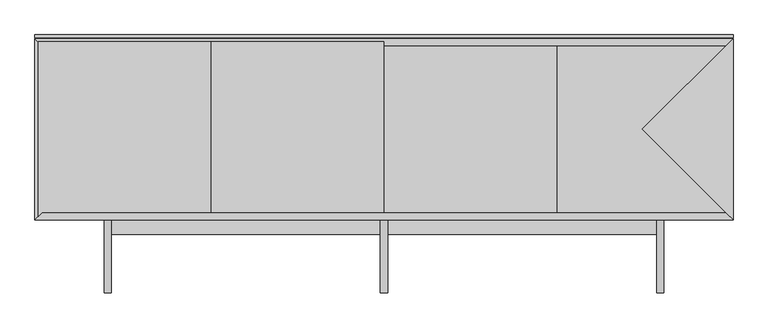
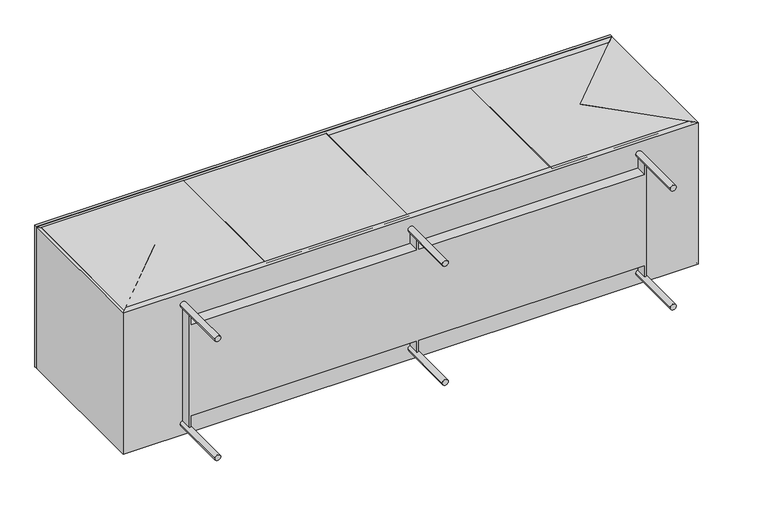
"""IFC4 building model written with IfcOpenShell, lengths in millimetres: proxy geometry, PARAGON^CREDENZA 3_35x96 4 DOORS W TOP-PARTS SOLID."""

import ifcopenshell
import ifcopenshell.guid

model = None  # the IFC model being written
_history = None  # IfcOwnerHistory: only IFC2X3 demands one
_inside = {}  # id of a spatial element -> (the spatial element, [elements in it])
_under = {}  # id of a project, library or spatial element -> (it, [spatial elements below it])
_declared = {}  # id of a project -> (the project, [libraries it declares])
_typed = {}  # id of a type object -> (the type object, [elements of that type])
_made_of = {}  # id of a material, layer set ... -> (it, [elements and type objects made of it])


def new_model(schema):
    """Start an empty IFC model of exactly this schema.

    Asked for "IFC4X3", IfcOpenShell would pick the latest addendum, in which some entities
    have other attributes; the version numbers below select the first issue.
    IFC2X3 requires an IfcOwnerHistory on every rooted entity: one is made here for all.
    """
    global model, _history
    if schema == "IFC4X3":
        model = ifcopenshell.file(schema_version=(4, 3, 0, 0))
    else:
        model = ifcopenshell.file(schema=schema)
    _inside.clear()
    _under.clear()
    _declared.clear()
    _typed.clear()
    _made_of.clear()
    _history = None
    if model.schema == "IFC2X3":
        org = make("IfcOrganization", Name="unknown")
        user = make(
            "IfcPersonAndOrganization",
            ThePerson=make("IfcPerson", FamilyName="unknown"),
            TheOrganization=org,
        )
        app = make(
            "IfcApplication",
            ApplicationDeveloper=org,
            Version="unknown",
            ApplicationFullName="unknown",
            ApplicationIdentifier="unknown",
        )
        _history = make(
            "IfcOwnerHistory",
            OwningUser=user,
            OwningApplication=app,
            ChangeAction="ADDED",
            CreationDate=0,
        )
    return model


def make(cls, **values):
    """One entity of the class cls with the attributes given. An attribute that is None is left unset."""
    return model.create_entity(
        cls, **{name: value for name, value in values.items() if value is not None}
    )


def rooted(cls, **values):
    """An entity with a GlobalId (a new one), such as an element, a storey or a relation."""
    return make(cls, GlobalId=ifcopenshell.guid.new(), OwnerHistory=_history, **values)


def si_unit(unit_type, name, prefix=None):
    """IfcSIUnit, for example si_unit("LENGTHUNIT", "METRE", prefix="MILLI")."""
    return make("IfcSIUnit", UnitType=unit_type, Prefix=prefix, Name=name)


def assignment(units):
    """IfcUnitAssignment: the units of a project."""
    return None if units is None else make("IfcUnitAssignment", Units=units)


def point(xyz):
    """IfcCartesianPoint."""
    return None if xyz is None else make("IfcCartesianPoint", Coordinates=xyz)


def direction(xyz):
    """IfcDirection."""
    return None if xyz is None else make("IfcDirection", DirectionRatios=xyz)


def frame(location, z_axis=None, x_axis=None):
    """IfcAxis2Placement3D, a coordinate frame: its origin and axes. An axis left out is left unset."""
    return make(
        "IfcAxis2Placement3D",
        Location=point(location),
        Axis=direction(z_axis),
        RefDirection=direction(x_axis),
    )


def origin():
    """The frame at (0, 0, 0) with its axes left unset."""
    return frame((0.0, 0.0, 0.0))


def origin_with_axes():
    """The frame at (0, 0, 0) with the z axis (0, 0, 1) and the x axis (1, 0, 0) written out."""
    return frame((0.0, 0.0, 0.0), z_axis=(0.0, 0.0, 1.0), x_axis=(1.0, 0.0, 0.0))


def place(relative_to, where):
    """IfcLocalPlacement: puts the frame where relative to a parent placement (None: the world)."""
    return make(
        "IfcLocalPlacement", PlacementRelTo=relative_to, RelativePlacement=where
    )


def context(
    kind, dimensions, precision=None, world=None, true_north=None, identifier=None
):
    """IfcGeometricRepresentationContext, for example the 3D "Model" context."""
    return make(
        "IfcGeometricRepresentationContext",
        ContextIdentifier=identifier,
        ContextType=kind,
        CoordinateSpaceDimension=dimensions,
        Precision=precision,
        WorldCoordinateSystem=world,
        TrueNorth=true_north,
    )


def project(units=None, contexts=None):
    """IfcProject with its units and contexts."""
    return rooted(
        "IfcProject",
        Name="project",
        RepresentationContexts=contexts,
        UnitsInContext=assignment(units),
    )


def spatial(cls, under=None, at=None, **own):
    """A site, building, storey or space (cls), placed at a placement, below another one or the project."""
    s = rooted(cls, ObjectPlacement=at, **own)
    if under is not None:
        _under.setdefault(under.id(), (under, []))[1].append(s)
    return s


def polyline(points):
    """IfcPolyline through the points."""
    return make("IfcPolyline", Points=[point(p) for p in points])


def circle_curve(where, radius):
    """IfcCircle in the frame where."""
    return make("IfcCircle", Position=where, Radius=radius)


def outline(outer, holes=None, kind="AREA"):
    """IfcArbitraryClosedProfileDef: a profile drawn as a closed curve; with holes, ...WithVoids."""
    if holes is None:
        return make("IfcArbitraryClosedProfileDef", ProfileType=kind, OuterCurve=outer)
    return make(
        "IfcArbitraryProfileDefWithVoids",
        ProfileType=kind,
        OuterCurve=outer,
        InnerCurves=holes,
    )


def extrude(swept, where, along, depth):
    """IfcExtrudedAreaSolid: the profile swept, set in the frame where, extruded along a direction by depth."""
    return make(
        "IfcExtrudedAreaSolid",
        SweptArea=swept,
        Position=where,
        ExtrudedDirection=direction(along),
        Depth=depth,
    )


def faces_of(points, faces, orient=None, outer=None):
    """IfcFace entities. A face is a list of loops; a loop is a list of indices into points, from 0.

    orient and outer hold one flag for each loop. By default every Orientation is true, the
    first loop of a face is its IfcFaceOuterBound and the others are IfcFaceBound.
    """
    made = []
    for i, loops in enumerate(faces):
        bounds = []
        for j, loop in enumerate(loops):
            is_outer = j == 0 if outer is None else outer[i][j]
            bounds.append(
                make(
                    "IfcFaceOuterBound" if is_outer else "IfcFaceBound",
                    Bound=make("IfcPolyLoop", Polygon=[points[k] for k in loop]),
                    Orientation=True if orient is None else orient[i][j],
                )
            )
        made.append(make("IfcFace", Bounds=bounds))
    return made


def faceted_brep(points, faces, orient=None, outer=None, voids=None):
    """IfcFacetedBrep: a solid bounded by flat faces; with voids (closed shells), ...WithVoids."""
    shared = [point(p) for p in points]
    hull = make("IfcClosedShell", CfsFaces=faces_of(shared, faces, orient, outer))
    if voids is None:
        return make("IfcFacetedBrep", Outer=hull)
    return make(
        "IfcFacetedBrepWithVoids",
        Outer=hull,
        Voids=[
            make(cls, CfsFaces=faces_of(shared, fs, o, b)) for cls, fs, o, b in voids
        ],
    )


def shape(context_of_items, identifier, shape_type, items):
    """IfcShapeRepresentation: the items that make up one representation, for example the "Body"."""
    return make(
        "IfcShapeRepresentation",
        ContextOfItems=context_of_items,
        RepresentationIdentifier=identifier,
        RepresentationType=shape_type,
        Items=items,
    )


def source(mapping_origin, context_of_items, identifier, shape_type, items):
    """IfcRepresentationMap: a shape defined once, which mapped items show again and again."""
    return make(
        "IfcRepresentationMap",
        MappingOrigin=mapping_origin,
        MappedRepresentation=shape(context_of_items, identifier, shape_type, items),
    )


def transform(
    local_origin,
    x_axis=None,
    y_axis=None,
    z_axis=None,
    scale=None,
    scale2=None,
    scale3=None,
    uniform=True,
):
    """IfcCartesianTransformationOperator3D, or its non-uniform kind. x_axis, y_axis, z_axis: its Axis1, 2, 3."""
    if uniform:
        return make(
            "IfcCartesianTransformationOperator3D",
            Axis1=direction(x_axis),
            Axis2=direction(y_axis),
            LocalOrigin=point(local_origin),
            Scale=scale,
            Axis3=direction(z_axis),
        )
    return make(
        "IfcCartesianTransformationOperator3DnonUniform",
        Axis1=direction(x_axis),
        Axis2=direction(y_axis),
        LocalOrigin=point(local_origin),
        Scale=scale,
        Axis3=direction(z_axis),
        Scale2=scale2,
        Scale3=scale3,
    )


def mapped(mapping_source, mapping_target):
    """IfcMappedItem: shows the shape of a source again, moved by a transform."""
    return make(
        "IfcMappedItem", MappingSource=mapping_source, MappingTarget=mapping_target
    )


def made_of(thing, what):
    """Note that an element or type object is made of a material, layer set ...; save() writes the relation."""
    if what is not None:
        _made_of.setdefault(what.id(), (what, []))[1].append(thing)
    return thing


def element(
    cls,
    number,
    at=None,
    inside=None,
    cuts=None,
    type_object=None,
    material=None,
    context=None,
    identifier="Body",
    shape_type=None,
    held_by="IfcProductDefinitionShape",
    body=None,
    shapes=None,
    **own,
):
    """One element of the class cls, such as IfcWall. Its Tag is "e" and its number.

    at: its placement. inside: the storey or other place that contains it. cuts: it is an
    opening in that element (IfcRelVoidsElement). A single representation is given by context,
    identifier, shape_type and body (its items); several are given by shapes. held_by: the class
    of the entity that holds the representations. save() writes the other relations.
    """
    e = rooted(cls, Tag="e%d" % number, ObjectPlacement=at, **own)
    if body is not None:
        shapes = [shape(context, identifier, shape_type, body)]
    if shapes is not None:
        e.Representation = make(held_by, Representations=shapes)
    if inside is not None:
        _inside.setdefault(inside.id(), (inside, []))[1].append(e)
    if cuts is not None:
        rooted(
            "IfcRelVoidsElement", RelatingBuildingElement=cuts, RelatedOpeningElement=e
        )
    if type_object is not None:
        _typed.setdefault(type_object.id(), (type_object, []))[1].append(e)
    return made_of(e, material)


def aggregate(whole, parts):
    """IfcRelAggregates: a whole, such as a stair, and the parts it consists of."""
    return rooted("IfcRelAggregates", RelatingObject=whole, RelatedObjects=parts)


def save(model, path):
    """Write the relations noted so far, then the file.

    IfcRelAggregates (storeys below a building ...), IfcRelContainedInSpatialStructure (elements
    in a storey), IfcRelDefinesByType, IfcRelAssociatesMaterial and IfcRelDeclares: one each for
    every whole, place, type object, material and project.
    """
    for whole, parts in _under.values():
        aggregate(whole, parts)
    for where, things in _inside.values():
        rooted(
            "IfcRelContainedInSpatialStructure",
            RelatedElements=things,
            RelatingStructure=where,
        )
    for kind, things in _typed.values():
        rooted("IfcRelDefinesByType", RelatedObjects=things, RelatingType=kind)
    for what, things in _made_of.values():
        rooted("IfcRelAssociatesMaterial", RelatedObjects=things, RelatingMaterial=what)
    for by, libraries in _declared.values():
        rooted("IfcRelDeclares", RelatingContext=by, RelatedDefinitions=libraries)
    model.write(path)


def plane_surface(at):
    """IfcPlane: the flat surface through the origin of the frame at, square to its z axis."""
    return make("IfcPlane", Position=at)


def cylinder_surface(at, radius):
    """IfcCylindricalSurface: all points at the distance radius from the z axis of the frame at."""
    return make("IfcCylindricalSurface", Position=at, Radius=radius)


def advanced_brep(points, edges, surfaces, faces):
    """IfcAdvancedBrep: a solid bounded by faces that lie on surfaces and meet in shared edges.

    An edge is (start, end): straight between two places in points (the first is 0);
    or (start, end, curve); or (start, end, curve, False) where it runs against its curve.
    A face is (place in surfaces, loops), or (place, loops, False) where it looks against
    its surface's normal. A loop lists edges by number (the first is 1), with a minus sign
    where the edge is run from its end to its start. The first loop is the outer one.
    """
    corners = [point(p) for p in points]
    vertices = [make("IfcVertexPoint", VertexGeometry=c) for c in corners]
    made = []
    for start, end, *more in edges:
        made.append(
            make(
                "IfcEdgeCurve",
                EdgeStart=vertices[start],
                EdgeEnd=vertices[end],
                EdgeGeometry=more[0] if more else make("IfcPolyline", Points=[corners[start], corners[end]]),
                SameSense=more[1] if len(more) > 1 else True,
            )
        )
    hull = []
    for where, loops, *sense in faces:
        bounds = []
        for j, loop in enumerate(loops):
            ring = [make("IfcOrientedEdge", EdgeElement=made[abs(k) - 1], Orientation=k > 0) for k in loop]
            bounds.append(
                make(
                    "IfcFaceOuterBound" if j == 0 else "IfcFaceBound",
                    Bound=make("IfcEdgeLoop", EdgeList=ring),
                    Orientation=True,
                )
            )
        hull.append(make("IfcAdvancedFace", Bounds=bounds, FaceSurface=surfaces[where], SameSense=sense[0] if sense else True))
    return make("IfcAdvancedBrep", Outer=make("IfcClosedShell", CfsFaces=hull))


def generic_models_f2650148(model_context):
    return source(origin(), model_context, "Body", "SolidModel", [
        faceted_brep([(2413.0, 25.4, 635.0), (25.4, 25.4, 635.0), (0.0, 0.0, 635.0), (2438.4, 0.0, 635.0), (2413.0, 25.4, 25.4), (25.4, 25.4, 25.4), (2438.4, 0.0, 0.0), (0.0, 0.0, 0.0)], [[[0, 1, 2, 3]], [[1, 0, 4, 5]], [[4, 0, 3, 6]], [[1, 5, 7, 2]], [[7, 5, 4, 6]], [[7, 6, 3, 2]]]),
        advanced_brep(
        [(266.7, 0.0, 50.8), (266.7, -254.0, 50.8), (241.3, -254.0, 50.8), (241.3, 0.0, 50.8), (266.7, 0.0, 584.2), (266.7, -254.0, 584.2), (241.3, -254.0, 584.2), (241.3, 0.0, 584.2), (250.825, 0.0, 571.9032779), (250.825, -50.8, 571.9032779), (257.175, -50.8, 571.9032779), (257.175, 0.0, 571.9032779), (2197.1, 0.0, 50.8), (2197.1, -254.0, 50.8), (2171.7, -254.0, 50.8), (2171.7, 0.0, 50.8), (2197.1, 0.0, 584.2), (2197.1, -254.0, 584.2), (2171.7, -254.0, 584.2), (2171.7, 0.0, 584.2), (2181.225, 0.0, 571.9032779), (2181.225, -50.8, 571.9032779), (2187.575, -50.8, 571.9032779), (2187.575, 0.0, 571.9032779), (1231.9, 0.0, 50.8), (1231.9, -254.0, 50.8), (1206.5, -254.0, 50.8), (1206.5, 0.0, 50.8), (1231.9, 0.0, 584.2), (1231.9, -254.0, 584.2), (1206.5, -254.0, 584.2), (1206.5, 0.0, 584.2), (1216.025, 0.0, 571.9032779), (1216.025, -50.8, 571.9032779), (1222.375, -50.8, 571.9032779), (1222.375, 0.0, 571.9032779), (257.175, 0.0, 113.8967221), (257.175, 0.0, 63.0967221), (250.825, 0.0, 63.0967221), (257.175, 0.0, 521.1032779), (1216.025, 0.0, 521.1032779), (1222.375, 0.0, 521.1032779), (2181.225, 0.0, 521.1032779), (2187.575, 0.0, 63.0967221), (2181.225, 0.0, 63.0967221), (2181.225, 0.0, 113.8967221), (1222.375, 0.0, 113.8967221), (1222.375, 0.0, 63.0967221), (1216.025, 0.0, 63.0967221), (1216.025, 0.0, 113.8967221), (257.175, -50.8, 113.8967221), (1216.025, -50.8, 113.8967221), (1216.025, -50.8, 63.0967221), (1222.375, -50.8, 63.0967221), (1222.375, -50.8, 113.8967221), (2181.225, -50.8, 113.8967221), (2181.225, -50.8, 63.0967221), (2187.575, -50.8, 63.0967221), (2181.225, -50.8, 521.1032779), (1222.375, -50.8, 521.1032779), (1216.025, -50.8, 521.1032779), (257.175, -50.8, 521.1032779), (250.825, -50.8, 63.0967221), (257.175, -50.8, 63.0967221)],
        [
            (0, 1),
            (1, 2, circle_curve(frame((254.0, -254.0, 50.8), z_axis=(0.0, 1.0, 0.0), x_axis=(1.0, 0.0, 0.0)), 12.7)),
            (2, 3),
            (3, 0, circle_curve(frame((254.0, 0.0, 50.8), z_axis=(0.0, -1.0, 0.0), x_axis=(1.0, 0.0, 0.0)), 12.7)),
            (4, 5),
            (5, 6, circle_curve(frame((254.0, -254.0, 584.2), z_axis=(0.0, 1.0, 0.0), x_axis=(1.0, 0.0, 0.0)), 12.7)),
            (6, 7),
            (7, 8, circle_curve(frame((254.0, 0.0, 584.2), z_axis=(0.0, -1.0, 0.0), x_axis=(1.0, 0.0, 0.0)), 12.7)),
            (8, 9),
            (9, 10, circle_curve(frame((254.0, -50.8, 584.2), z_axis=(0.0, -1.0, 0.0), x_axis=(1.0, 0.0, 0.0)), 12.7)),
            (10, 11),
            (11, 4, circle_curve(frame((254.0, 0.0, 584.2), z_axis=(0.0, -1.0, 0.0), x_axis=(1.0, 0.0, 0.0)), 12.7)),
            (12, 13),
            (13, 14, circle_curve(frame((2184.4, -254.0, 50.8), z_axis=(0.0, 1.0, 0.0), x_axis=(1.0, 0.0, 0.0)), 12.7)),
            (14, 15),
            (15, 12, circle_curve(frame((2184.4, 0.0, 50.8), z_axis=(0.0, -1.0, 0.0), x_axis=(1.0, 0.0, 0.0)), 12.7)),
            (16, 17),
            (17, 18, circle_curve(frame((2184.4, -254.0, 584.2), z_axis=(0.0, 1.0, 0.0), x_axis=(1.0, 0.0, 0.0)), 12.7)),
            (18, 19),
            (19, 20, circle_curve(frame((2184.4, 0.0, 584.2), z_axis=(0.0, -1.0, 0.0), x_axis=(1.0, 0.0, 0.0)), 12.7)),
            (20, 21),
            (21, 22, circle_curve(frame((2184.4, -50.8, 584.2), z_axis=(0.0, -1.0, 0.0), x_axis=(1.0, 0.0, 0.0)), 12.7)),
            (22, 23),
            (23, 16, circle_curve(frame((2184.4, 0.0, 584.2), z_axis=(0.0, -1.0, 0.0), x_axis=(1.0, 0.0, 0.0)), 12.7)),
            (24, 25),
            (25, 26, circle_curve(frame((1219.2, -254.0, 50.8), z_axis=(0.0, 1.0, 0.0), x_axis=(1.0, 0.0, 0.0)), 12.7)),
            (26, 27),
            (27, 24, circle_curve(frame((1219.2, 0.0, 50.8), z_axis=(0.0, -1.0, 0.0), x_axis=(1.0, 0.0, 0.0)), 12.7)),
            (28, 29),
            (29, 30, circle_curve(frame((1219.2, -254.0, 584.2), z_axis=(0.0, 1.0, 0.0), x_axis=(1.0, 0.0, 0.0)), 12.7)),
            (30, 31),
            (31, 32, circle_curve(frame((1219.2, 0.0, 584.2), z_axis=(0.0, -1.0, 0.0), x_axis=(1.0, 0.0, 0.0)), 12.7)),
            (32, 33),
            (33, 34, circle_curve(frame((1219.2, -50.8, 584.2), z_axis=(0.0, -1.0, 0.0), x_axis=(1.0, 0.0, 0.0)), 12.7)),
            (34, 35),
            (35, 28, circle_curve(frame((1219.2, 0.0, 584.2), z_axis=(0.0, -1.0, 0.0), x_axis=(1.0, 0.0, 0.0)), 12.7)),
            (36, 37),
            (37, 0, circle_curve(frame((254.0, 0.0, 50.8), z_axis=(0.0, 1.0, 0.0), x_axis=(1.0, 0.0, 0.0)), 12.7)),
            (3, 38, circle_curve(frame((254.0, 0.0, 50.8), z_axis=(0.0, 1.0, 0.0), x_axis=(1.0, 0.0, 0.0)), 12.7)),
            (38, 8),
            (7, 4, circle_curve(frame((254.0, 0.0, 584.2), z_axis=(0.0, 1.0, 0.0), x_axis=(1.0, 0.0, 0.0)), 12.7)),
            (11, 39),
            (39, 40),
            (40, 32),
            (31, 28, circle_curve(frame((1219.2, 0.0, 584.2), z_axis=(0.0, 1.0, 0.0), x_axis=(1.0, 0.0, 0.0)), 12.7)),
            (35, 41),
            (41, 42),
            (42, 20),
            (19, 16, circle_curve(frame((2184.4, 0.0, 584.2), z_axis=(0.0, 1.0, 0.0), x_axis=(1.0, 0.0, 0.0)), 12.7)),
            (23, 43),
            (43, 12, circle_curve(frame((2184.4, 0.0, 50.8), z_axis=(0.0, 1.0, 0.0), x_axis=(1.0, 0.0, 0.0)), 12.7)),
            (15, 44, circle_curve(frame((2184.4, 0.0, 50.8), z_axis=(0.0, 1.0, 0.0), x_axis=(1.0, 0.0, 0.0)), 12.7)),
            (44, 45),
            (45, 46),
            (46, 47),
            (47, 24, circle_curve(frame((1219.2, 0.0, 50.8), z_axis=(0.0, 1.0, 0.0), x_axis=(1.0, 0.0, 0.0)), 12.7)),
            (27, 48, circle_curve(frame((1219.2, 0.0, 50.8), z_axis=(0.0, 1.0, 0.0), x_axis=(1.0, 0.0, 0.0)), 12.7)),
            (48, 49),
            (49, 36),
            (50, 51),
            (51, 52),
            (52, 53, circle_curve(frame((1219.2, -50.8, 50.8), z_axis=(0.0, 1.0, 0.0), x_axis=(1.0, 0.0, 0.0)), 12.7)),
            (53, 54),
            (54, 55),
            (55, 56),
            (56, 57, circle_curve(frame((2184.4, -50.8, 50.8), z_axis=(0.0, 1.0, 0.0), x_axis=(1.0, 0.0, 0.0)), 12.7)),
            (57, 22),
            (21, 58),
            (58, 59),
            (59, 34),
            (33, 60),
            (60, 61),
            (61, 10),
            (9, 62),
            (62, 63, circle_curve(frame((254.0, -50.8, 50.8), z_axis=(0.0, 1.0, 0.0), x_axis=(1.0, 0.0, 0.0)), 12.7)),
            (63, 50),
            (49, 51),
            (50, 36),
            (54, 46),
            (45, 55),
            (41, 59),
            (58, 42),
            (60, 40),
            (39, 61),
            (48, 52),
            (53, 47),
            (30, 29, circle_curve(frame((1219.2, -254.0, 584.2), z_axis=(0.0, 1.0, 0.0), x_axis=(1.0, 0.0, 0.0)), 12.7)),
            (26, 25, circle_curve(frame((1219.2, -254.0, 50.8), z_axis=(0.0, 1.0, 0.0), x_axis=(1.0, 0.0, 0.0)), 12.7)),
            (44, 56),
            (57, 43),
            (18, 17, circle_curve(frame((2184.4, -254.0, 584.2), z_axis=(0.0, 1.0, 0.0), x_axis=(1.0, 0.0, 0.0)), 12.7)),
            (14, 13, circle_curve(frame((2184.4, -254.0, 50.8), z_axis=(0.0, 1.0, 0.0), x_axis=(1.0, 0.0, 0.0)), 12.7)),
            (63, 37),
            (38, 62),
            (6, 5, circle_curve(frame((254.0, -254.0, 584.2), z_axis=(0.0, 1.0, 0.0), x_axis=(1.0, 0.0, 0.0)), 12.7)),
            (2, 1, circle_curve(frame((254.0, -254.0, 50.8), z_axis=(0.0, 1.0, 0.0), x_axis=(1.0, 0.0, 0.0)), 12.7)),
        ],
        [
            cylinder_surface(frame((254.0, 0.0, 50.8), z_axis=(0.0, -1.0, 0.0), x_axis=(1.0, 0.0, 0.0)), 12.7),
            cylinder_surface(frame((254.0, 0.0, 584.2), z_axis=(0.0, -1.0, 0.0), x_axis=(1.0, 0.0, 0.0)), 12.7),
            cylinder_surface(frame((2184.4, 0.0, 50.8), z_axis=(0.0, -1.0, 0.0), x_axis=(1.0, 0.0, 0.0)), 12.7),
            cylinder_surface(frame((2184.4, 0.0, 584.2), z_axis=(0.0, -1.0, 0.0), x_axis=(1.0, 0.0, 0.0)), 12.7),
            cylinder_surface(frame((1219.2, 0.0, 50.8), z_axis=(0.0, -1.0, 0.0), x_axis=(1.0, 0.0, 0.0)), 12.7),
            cylinder_surface(frame((1219.2, 0.0, 584.2), z_axis=(0.0, -1.0, 0.0), x_axis=(1.0, 0.0, 0.0)), 12.7),
            plane_surface(frame((254.0, 0.0, 50.8), z_axis=(0.0, 1.0, 0.0), x_axis=(0.0, 0.0, -1.0))),
            plane_surface(frame((254.0, -50.8, 317.5), z_axis=(0.0, -1.0, 0.0), x_axis=(0.0, 0.0, -1.0))),
            plane_surface(frame((257.175, -50.8, 113.8967221), z_axis=(0.0, 0.0, -1.0), x_axis=(0.0, 1.0, 0.0))),
            plane_surface(frame((257.175, 0.0, 521.1032779), z_axis=(0.0, 0.0, 1.0), x_axis=(0.0, -1.0, 0.0))),
            plane_surface(frame((1216.025, 0.0, 584.2), z_axis=(-1.0, 0.0, 0.0), x_axis=(0.0, 0.0, -1.0))),
            plane_surface(frame((1222.375, 0.0, 50.8), z_axis=(1.0, 0.0, 0.0), x_axis=(0.0, 0.0, 1.0))),
            plane_surface(frame((1219.2, -254.0, 584.2), z_axis=(0.0, -1.0, 0.0), x_axis=(0.0, 0.0, -1.0))),
            plane_surface(frame((1219.2, -254.0, 50.8), z_axis=(0.0, -1.0, 0.0), x_axis=(0.0, 0.0, -1.0))),
            plane_surface(frame((2181.225, 0.0, 584.2), z_axis=(-1.0, 0.0, 0.0), x_axis=(0.0, 0.0, -1.0))),
            plane_surface(frame((2187.575, 0.0, 50.8), z_axis=(1.0, 0.0, 0.0), x_axis=(0.0, 0.0, 1.0))),
            plane_surface(frame((2184.4, -254.0, 584.2), z_axis=(0.0, -1.0, 0.0), x_axis=(0.0, 0.0, -1.0))),
            plane_surface(frame((2184.4, -254.0, 50.8), z_axis=(0.0, -1.0, 0.0), x_axis=(0.0, 0.0, -1.0))),
            plane_surface(frame((257.175, 0.0, 50.8), z_axis=(1.0, 0.0, 0.0), x_axis=(0.0, 0.0, 1.0))),
            plane_surface(frame((250.825, 0.0, 584.2), z_axis=(-1.0, 0.0, 0.0), x_axis=(0.0, 0.0, -1.0))),
            plane_surface(frame((254.0, -254.0, 584.2), z_axis=(0.0, -1.0, 0.0), x_axis=(0.0, 0.0, -1.0))),
            plane_surface(frame((254.0, -254.0, 50.8), z_axis=(0.0, -1.0, 0.0), x_axis=(0.0, 0.0, -1.0))),
        ],
        [
            (0, [[1, 2, 3, 4]]),
            (1, [[5, 6, 7, 8, 9, 10, 11, 12]]),
            (2, [[13, 14, 15, 16]]),
            (3, [[17, 18, 19, 20, 21, 22, 23, 24]]),
            (4, [[25, 26, 27, 28]]),
            (5, [[29, 30, 31, 32, 33, 34, 35, 36]]),
            (6, [[37, 38, -4, 39, 40, -8, 41, -12, 42, 43, 44, -32, 45, -36, 46, 47, 48, -20, 49, -24, 50, 51, -16, 52, 53, 54, 55, 56, -28, 57, 58, 59]]),
            (7, [[60, 61, 62, 63, 64, 65, 66, 67, -22, 68, 69, 70, -34, 71, 72, 73, -10, 74, 75, 76]]),
            (8, [[77, -60, 78, -59]]),
            (8, [[79, -54, 80, -64]]),
            (9, [[81, -69, 82, -47]]),
            (9, [[83, -43, 84, -72]]),
            (10, [[-83, -71, -33, -44]]),
            (10, [[-77, -58, 85, -61]]),
            (11, [[-79, -63, 86, -55]]),
            (11, [[-81, -46, -35, -70]]),
            (5, [[-29, -45, -31, 87]]),
            (12, [[-87, -30]]),
            (4, [[-25, -56, -86, -62, -85, -57, -27, 88]]),
            (13, [[-88, -26]]),
            (14, [[-82, -68, -21, -48]]),
            (14, [[-80, -53, 89, -65]]),
            (15, [[90, -50, -23, -67]]),
            (3, [[-17, -49, -19, 91]]),
            (16, [[-91, -18]]),
            (2, [[-13, -51, -90, -66, -89, -52, -15, 92]]),
            (17, [[-92, -14]]),
            (18, [[-84, -42, -11, -73]]),
            (18, [[-78, -76, 93, -37]]),
            (19, [[94, -74, -9, -40]]),
            (1, [[-5, -41, -7, 95]]),
            (20, [[-95, -6]]),
            (0, [[-1, -38, -93, -75, -94, -39, -3, 96]]),
            (21, [[-96, -2]]),
        ],
    ),
        extrude(outline(polyline([(616.1484375, 623.09375), (1218.009375, 623.09375), (1218.009375, 11.90625), (616.1484375, 11.90625), (616.1484375, 623.09375)])), frame((0.0, 0.0, 609.6), z_axis=(0.0, 0.0, 1.0), x_axis=(1.0, 0.0, 0.0)), (0.0, 0.0, 1.0), 25.4),
        extrude(outline(polyline([(11.90625, 623.09375), (613.7671875, 623.09375), (613.7671875, 11.90625), (11.90625, 11.90625), (11.90625, 623.09375)])), frame((0.0, 0.0, 609.6), z_axis=(0.0, 0.0, 1.0), x_axis=(1.0, 0.0, 0.0)), (0.0, 0.0, 1.0), 25.4),
        faceted_brep([(2120.9, 317.5, 635.0), (2438.4, 635.0, 635.0), (2438.4, 635.0, 0.0), (2120.9, 317.5, 317.5), (2438.4, 0.0, 635.0), (2438.4, 0.0, 0.0)], [[[0, 1, 2, 3]], [[1, 0, 4]], [[5, 3, 2]], [[0, 3, 5, 4]], [[5, 2, 1, 4]]]),
        extrude(outline(polyline([(2438.4, 638.175), (0.0, 638.175), (0.0, 647.7), (2438.4, 647.7), (2438.4, 638.175)])), origin_with_axes(), (0.0, 0.0, 1.0), 635.0),
        extrude(outline(polyline([(1831.975, 25.4), (1812.925, 25.4), (1812.925, 609.6), (1831.975, 609.6), (1831.975, 25.4)])), frame((0.0, 0.0, 25.4), z_axis=(0.0, 0.0, 1.0), x_axis=(1.0, 0.0, 0.0)), (0.0, 0.0, 1.0), 581.025),
        faceted_brep([(25.4, 609.6, 635.0), (2413.0, 609.6, 635.0), (2438.4, 635.0, 635.0), (0.0, 635.0, 635.0), (25.4, 609.6, 25.4), (2413.0, 609.6, 25.4), (0.0, 635.0, 0.0), (2438.4, 635.0, 0.0)], [[[0, 1, 2, 3]], [[1, 0, 4, 5]], [[4, 0, 3, 6]], [[7, 5, 4, 6]], [[7, 6, 3, 2]], [[1, 5, 7, 2]]]),
        extrude(outline(polyline([(1220.390625, 623.09375), (1822.2515625, 623.09375), (1822.2515625, 11.90625), (1220.390625, 11.90625), (1220.390625, 623.09375)])), frame((0.0, 0.0, 609.6), z_axis=(0.0, 0.0, 1.0), x_axis=(1.0, 0.0, 0.0)), (0.0, 0.0, 1.0), 25.4),
        extrude(outline(polyline([(1824.6328125, 11.90625), (1824.6328125, 623.09375), (2426.49375, 623.09375), (2426.49375, 11.90625), (1824.6328125, 11.90625)])), frame((0.0, 0.0, 609.6), z_axis=(0.0, 0.0, 1.0), x_axis=(1.0, 0.0, 0.0)), (0.0, 0.0, 1.0), 25.4),
        extrude(outline(polyline([(625.475, 25.4), (606.425, 25.4), (606.425, 609.6), (625.475, 609.6), (625.475, 25.4)])), frame((0.0, 0.0, 25.4), z_axis=(0.0, 0.0, 1.0), x_axis=(1.0, 0.0, 0.0)), (0.0, 0.0, 1.0), 581.025),
        extrude(outline(polyline([(2419.35, 635.0), (19.05, 635.0), (19.05, 638.175), (2419.35, 638.175), (2419.35, 635.0)])), frame((0.0, 0.0, 19.05), z_axis=(0.0, 0.0, 1.0), x_axis=(1.0, 0.0, 0.0)), (0.0, 0.0, 1.0), 596.9),
        faceted_brep([(317.5, 317.5, 635.0), (0.0, 0.0, 635.0), (0.0, 0.0, 0.0), (317.5, 317.5, 317.5), (0.0, 635.0, 635.0), (0.0, 635.0, 0.0)], [[[0, 1, 2, 3]], [[1, 0, 4]], [[5, 3, 2]], [[0, 3, 5, 4]], [[5, 2, 1, 4]]]),
        faceted_brep([(0.0, 0.0, 0.0), (317.5, 317.5, 317.5), (0.0, 635.0, 0.0), (2438.4, 0.0, 0.0), (2120.9, 317.5, 317.5), (2438.4, 635.0, 0.0)], [[[0, 1, 2]], [[1, 0, 3, 4]], [[1, 4, 5, 2]], [[5, 3, 0, 2]], [[4, 3, 5]]]),
    ])


if __name__ == "__main__":
    model = new_model("IFC4")
    model_context = context("Model", 3, world=origin())
    ifc_project = project(units=[si_unit("LENGTHUNIT", "METRE", prefix="MILLI")], contexts=[model_context])
    site = spatial("IfcSite", under=ifc_project)
    building = spatial("IfcBuilding", under=site)
    placement = place(None, origin())
    generic_models_shape = generic_models_f2650148(model_context)
    element("IfcBuildingElementProxy", 1, Name="PARAGON^CREDENZA 3_35x96 4 DOORS W TOP-PARTS SOLID", ObjectType="PARAGON^CREDENZA 3_35x96 4 DOORS W TOP-PARTS SOLID", at=placement, inside=building, context=model_context, shape_type="MappedRepresentation", body=[
        mapped(generic_models_shape, transform((0.0, 0.0, 0.0), x_axis=(1.0, 0.0, 0.0), y_axis=(0.0, 1.0, 0.0), z_axis=(0.0, 0.0, 1.0))),
    ])
    save(model, "model.ifc")
